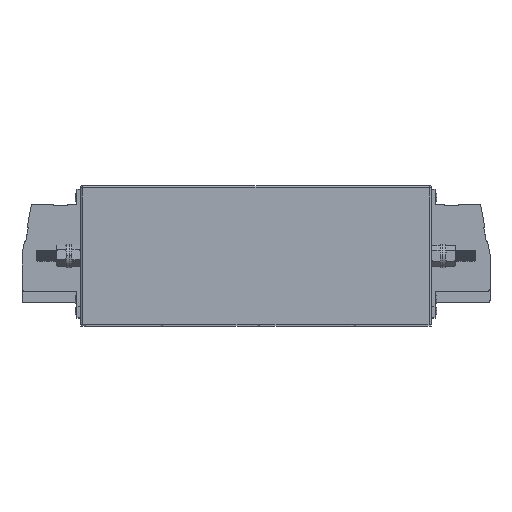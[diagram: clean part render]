
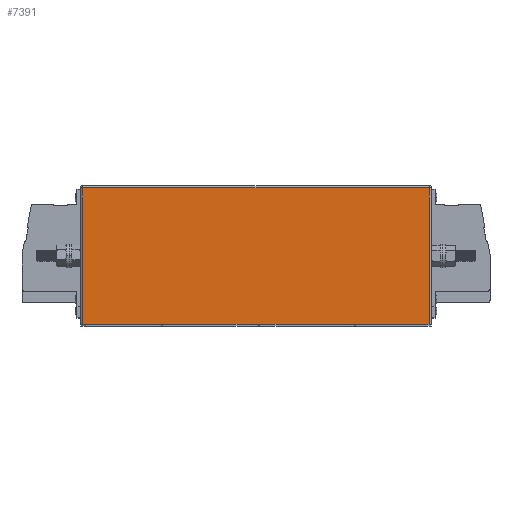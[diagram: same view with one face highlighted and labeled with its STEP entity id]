
A CAD part, top view. The second image highlights one B-rep face of the part: STEP entity #7391.
In plain terms, the highlighted planar face has unit normal (0, 0, 1).
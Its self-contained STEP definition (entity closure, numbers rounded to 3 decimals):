
#262 = DIRECTION ( 'NONE',  ( -1., 0., 0. ) ) ;
#466 = LINE ( 'NONE', #5225, #8356 ) ;
#493 = CARTESIAN_POINT ( 'NONE',  ( 0., 120., -14. ) ) ;
#539 = DIRECTION ( 'NONE',  ( 0., 0., -1. ) ) ;
#1332 = CARTESIAN_POINT ( 'NONE',  ( 2., 118., -14. ) ) ;
#1649 = DIRECTION ( 'NONE',  ( 0., 1., 0. ) ) ;
#2253 = DIRECTION ( 'NONE',  ( -1., 0., 0. ) ) ;
#2407 = ORIENTED_EDGE ( 'NONE', *, *, #9007, .T. ) ;
#2553 = CARTESIAN_POINT ( 'NONE',  ( 298., 1.5, -14. ) ) ;
#2809 = ORIENTED_EDGE ( 'NONE', *, *, #7668, .T. ) ;
#3287 = CARTESIAN_POINT ( 'NONE',  ( 2., 120., -14. ) ) ;
#3898 = AXIS2_PLACEMENT_3D ( 'NONE', #493, #539, #2253 ) ;
#4240 = DIRECTION ( 'NONE',  ( 0., -1., 0. ) ) ;
#4429 = VECTOR ( 'NONE', #11418, 1000. ) ;
#4575 = VECTOR ( 'NONE', #262, 1000. ) ;
#4625 = EDGE_CURVE ( 'NONE', #5258, #9044, #466, .T. ) ;
#4870 = LINE ( 'NONE', #10639, #4429 ) ;
#5152 = FACE_OUTER_BOUND ( 'NONE', #10620, .T. ) ;
#5225 = CARTESIAN_POINT ( 'NONE',  ( 298., 120., -14. ) ) ;
#5258 = VERTEX_POINT ( 'NONE', #2553 ) ;
#5344 = CARTESIAN_POINT ( 'NONE',  ( 298., 118., -14. ) ) ;
#6120 = VERTEX_POINT ( 'NONE', #1332 ) ;
#7056 = EDGE_CURVE ( 'NONE', #9044, #6120, #7565, .T. ) ;
#7064 = CARTESIAN_POINT ( 'NONE',  ( 2., 1.5, -14. ) ) ;
#7221 = VECTOR ( 'NONE', #4240, 1000. ) ;
#7391 = ADVANCED_FACE ( 'NONE', ( #5152 ), #8689, .F. ) ;
#7565 = LINE ( 'NONE', #7674, #4575 ) ;
#7668 = EDGE_CURVE ( 'NONE', #8198, #5258, #4870, .T. ) ;
#7674 = CARTESIAN_POINT ( 'NONE',  ( 0., 118., -14. ) ) ;
#8198 = VERTEX_POINT ( 'NONE', #7064 ) ;
#8356 = VECTOR ( 'NONE', #1649, 1000. ) ;
#8511 = LINE ( 'NONE', #3287, #7221 ) ;
#8675 = ORIENTED_EDGE ( 'NONE', *, *, #4625, .T. ) ;
#8689 = PLANE ( 'NONE',  #3898 ) ;
#9007 = EDGE_CURVE ( 'NONE', #6120, #8198, #8511, .T. ) ;
#9044 = VERTEX_POINT ( 'NONE', #5344 ) ;
#10620 = EDGE_LOOP ( 'NONE', ( #11277, #2407, #2809, #8675 ) ) ;
#10639 = CARTESIAN_POINT ( 'NONE',  ( 0., 1.5, -14. ) ) ;
#11277 = ORIENTED_EDGE ( 'NONE', *, *, #7056, .T. ) ;
#11418 = DIRECTION ( 'NONE',  ( 1., 0., 0. ) ) ;
